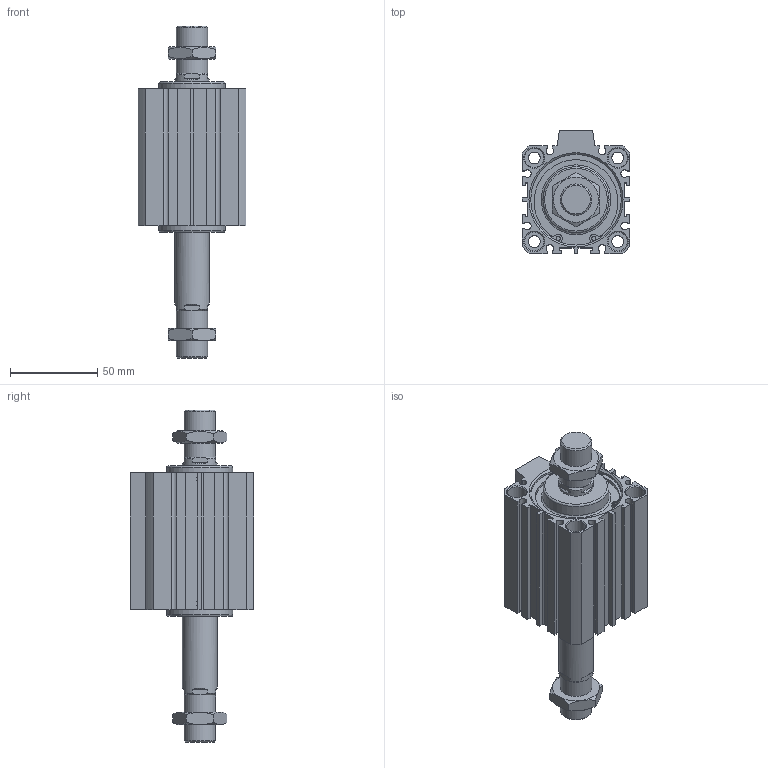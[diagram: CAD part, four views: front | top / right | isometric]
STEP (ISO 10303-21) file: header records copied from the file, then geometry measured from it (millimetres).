
FILE_DESCRIPTION((''),'2;1');
FILE_NAME('I:\3D電子目錄\氣缸\JDD\JDD-BS\JDD50-BS\JDD50x40-BS.stp','2007-02-27T15:10:16',('662F206'),(''),'Autodesk Inventor 10','Autodesk Inventor 10','');
FILE_SCHEMA(('AUTOMOTIVE_DESIGN { 1 0 10303 214 1 1 1 1 }'));
Length unit declared in the file: millimetre
Products named in the file (3): JDD50-BS; R 形環 52
Assembly tree (3 placements, depth 2):
  JDD50-BS
    JDD50-BS
    R 形環 52  x2
Bounding box: 62 x 71 x 190.6 mm (x, y, z)
Volume: 307864.8 mm3; surface area: 61926.8 mm2
Topology: 3 solids, 3 shells, 231 faces, 561 edges, 362 vertices
Faces by surface type: plane 133, cylinder 56, cone 38, bspline 2, torus 2
Full cylindrical faces by diameter (mm): 2.3 x4, 2.7 x2, 6.8 x4, 11 x8, 18 x4, 20 x2, 38 x2, 52 x4, 55 x2
Entity records: 6180 total; most frequent: CARTESIAN_POINT 1222, DIRECTION 1017, ORIENTED_EDGE 942, EDGE_CURVE 471, AXIS2_PLACEMENT_3D 375, VERTEX_POINT 334, EDGE_LOOP 309, VECTOR 267
